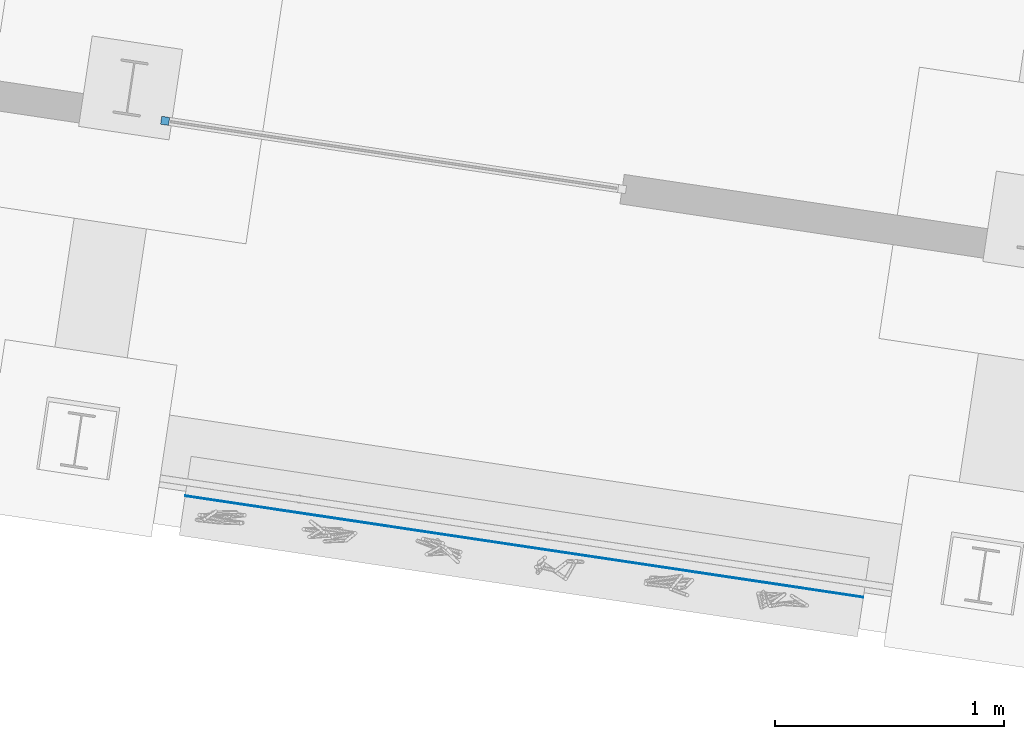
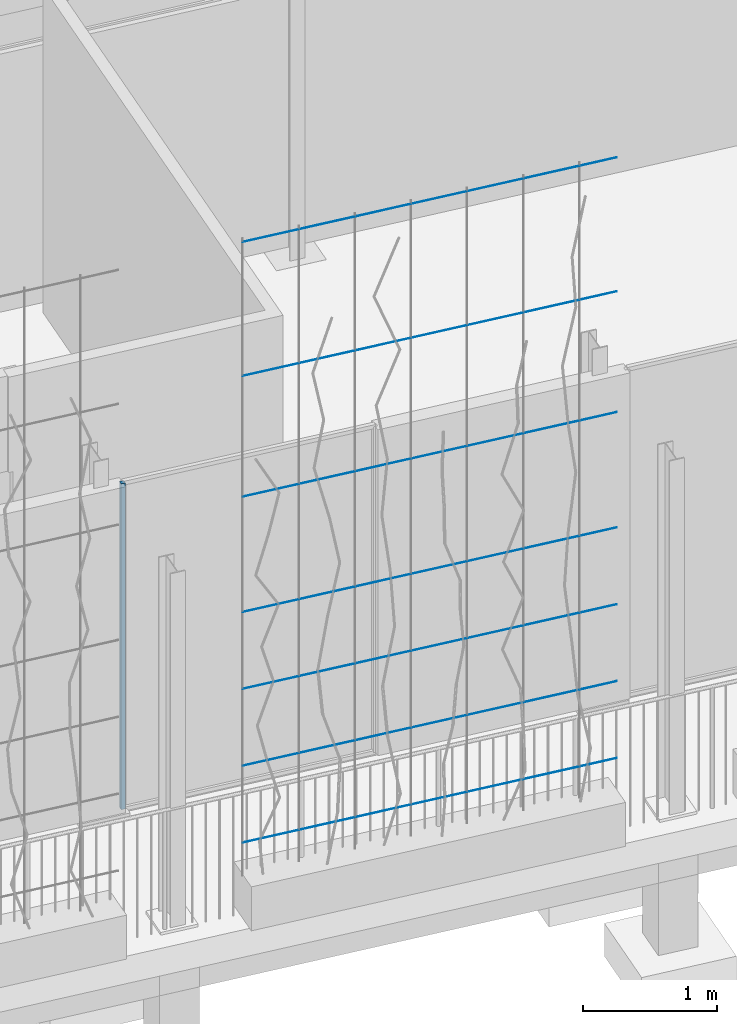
# One storey, part 77 of 142: 8 members, 1 element without a shape of its own.
"""IFC4 building model written with IfcOpenShell, lengths in metres."""

from ifc_helpers import new_model, si_unit, direction, frame, origin_with_axes, place, context, subcontext, project, spatial, rectangle, circle, extrude, material, material_profile, profile_set, profile_usage, type_object, element, aggregate, save


model = new_model("IFC4")

# Units and contexts
model_context = context("Model", 3, precision=1e-05, world=origin_with_axes(), true_north=direction((0.0, 1.0)))
body_context = subcontext(model_context, "Body", "Model", "MODEL_VIEW")
ifc_project = project(units=[si_unit("AREAUNIT", "SQUARE_METRE"), si_unit("VOLUMEUNIT", "CUBIC_METRE"), si_unit("LENGTHUNIT", "METRE")], contexts=[model_context])

# Site, building, storey
site_placement = place(None, origin_with_axes())
site = spatial("IfcSite", under=ifc_project, at=site_placement, Name="Lares · Rua das Mercês · artigo 4771")
building_placement = place(site_placement, frame((15.0, 9.7, 14.65), z_axis=(0.0, 0.0, 1.0), x_axis=(0.989015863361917, -0.147809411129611, 0.0)))
building = spatial("IfcBuilding", under=site, at=building_placement, Name="Casa Sobreposta")
storey_placement = place(building_placement, origin_with_axes())
storey = spatial("IfcBuildingStorey", under=building, at=storey_placement, Name="00 · Habitação e estacionamento", Elevation=14.65)

# Member
ifc_material_1 = material(Name="Aço pintado / Stahl lackiert", Category="steel")
ifc_material_profile_1 = material_profile(ifc_material_1, rectangle(XDim=0.035, YDim=0.035))
ifc_profile_set_1 = profile_set([ifc_material_profile_1], Name="R0.035")
ifc_profile_usage_1 = profile_usage(ifc_profile_set_1)
member_type_1 = type_object("IfcMemberType", Name="R0.035 / steel", PredefinedType="NOTDEFINED", material=ifc_profile_set_1)
member_1_placement = place(storey_placement, frame((16.1706666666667, 0.0, 0.0), z_axis=(0.0, 0.0, 1.0), x_axis=(1.0, 0.0, 0.0)))
element("IfcMember", 1, at=member_1_placement, inside=storey, type_object=member_type_1, material=ifc_profile_usage_1, Name="Folha de correr sul 8 · montante", context=body_context, shape_type="SweptSolid", body=[
    extrude(rectangle(XDim=0.035, YDim=0.035), origin_with_axes(), (0.0, 0.0, 1.0), 2.968),
])

# Assembly, members
assembly_placement = place(storey_placement, origin_with_axes())
assembly = element("IfcElementAssembly", 2, at=assembly_placement, inside=storey, Name="Fachada sul e pátio · estrutura e trepadeiras", ObjectType="LIVING_SHADE_TRELLIS", PredefinedType="USERDEFINED")
ifc_material_2 = material(Name="Aço galvanizado / Stahl verzinkt", Category="steel")
ifc_material_profile_2 = material_profile(ifc_material_2, circle(Radius=0.002))
ifc_profile_set_2 = profile_set([ifc_material_profile_2], Name="D0.004")
ifc_profile_usage_2 = profile_usage(ifc_profile_set_2)
member_type_2 = type_object("IfcMemberType", Name="D0.004 / galvanized", PredefinedType="NOTDEFINED", material=ifc_profile_set_2)
member_2_placement = place(assembly_placement, frame((16.5, -1.61, 0.65), z_axis=(1.0, 0.0, 0.0), x_axis=(0.0, -1.0, 0.0)))
member_2 = element("IfcMember", 3, at=member_2_placement, type_object=member_type_2, material=ifc_profile_usage_2, Name="Trepadeiras · fio horizontal", context=body_context, shape_type="SweptSolid", body=[
    extrude(circle(Radius=0.002), origin_with_axes(), (0.0, 0.0, 1.0), 3.0),
])
ifc_profile_usage_3 = profile_usage(ifc_profile_set_2)
member_3_placement = place(assembly_placement, frame((16.5, -1.61, 1.35), z_axis=(1.0, 0.0, 0.0), x_axis=(0.0, -1.0, 0.0)))
member_3 = element("IfcMember", 4, at=member_3_placement, type_object=member_type_2, material=ifc_profile_usage_3, Name="Trepadeiras · fio horizontal", context=body_context, shape_type="SweptSolid", body=[
    extrude(circle(Radius=0.002), origin_with_axes(), (0.0, 0.0, 1.0), 3.0),
])
ifc_profile_usage_4 = profile_usage(ifc_profile_set_2)
member_4_placement = place(assembly_placement, frame((16.5, -1.61, 2.05), z_axis=(1.0, 0.0, 0.0), x_axis=(0.0, -1.0, 0.0)))
member_4 = element("IfcMember", 5, at=member_4_placement, type_object=member_type_2, material=ifc_profile_usage_4, Name="Trepadeiras · fio horizontal", context=body_context, shape_type="SweptSolid", body=[
    extrude(circle(Radius=0.002), origin_with_axes(), (0.0, 0.0, 1.0), 3.0),
])
ifc_profile_usage_5 = profile_usage(ifc_profile_set_2)
member_5_placement = place(assembly_placement, frame((16.5, -1.61, 2.75), z_axis=(1.0, 0.0, 0.0), x_axis=(0.0, -1.0, 0.0)))
member_5 = element("IfcMember", 6, at=member_5_placement, type_object=member_type_2, material=ifc_profile_usage_5, Name="Trepadeiras · fio horizontal", context=body_context, shape_type="SweptSolid", body=[
    extrude(circle(Radius=0.002), origin_with_axes(), (0.0, 0.0, 1.0), 3.0),
])
ifc_profile_usage_6 = profile_usage(ifc_profile_set_2)
member_6_placement = place(assembly_placement, frame((16.5, -1.61, 3.8), z_axis=(1.0, 0.0, 0.0), x_axis=(0.0, -1.0, 0.0)))
member_6 = element("IfcMember", 7, at=member_6_placement, type_object=member_type_2, material=ifc_profile_usage_6, Name="Trepadeiras · fio horizontal", context=body_context, shape_type="SweptSolid", body=[
    extrude(circle(Radius=0.002), origin_with_axes(), (0.0, 0.0, 1.0), 3.0),
])
ifc_profile_usage_7 = profile_usage(ifc_profile_set_2)
member_7_placement = place(assembly_placement, frame((16.5, -1.61, 4.9), z_axis=(1.0, 0.0, 0.0), x_axis=(0.0, -1.0, 0.0)))
member_7 = element("IfcMember", 8, at=member_7_placement, type_object=member_type_2, material=ifc_profile_usage_7, Name="Trepadeiras · fio horizontal", context=body_context, shape_type="SweptSolid", body=[
    extrude(circle(Radius=0.002), origin_with_axes(), (0.0, 0.0, 1.0), 3.0),
])
ifc_profile_usage_8 = profile_usage(ifc_profile_set_2)
member_8_placement = place(assembly_placement, frame((16.5, -1.61, 6.12), z_axis=(1.0, 0.0, 0.0), x_axis=(0.0, -1.0, 0.0)))
member_8 = element("IfcMember", 9, at=member_8_placement, type_object=member_type_2, material=ifc_profile_usage_8, Name="Trepadeiras · fio horizontal", context=body_context, shape_type="SweptSolid", body=[
    extrude(circle(Radius=0.002), origin_with_axes(), (0.0, 0.0, 1.0), 3.0),
])
aggregate(assembly, [member_2, member_3, member_4, member_5, member_6, member_7, member_8])

save(model, "model.ifc")
